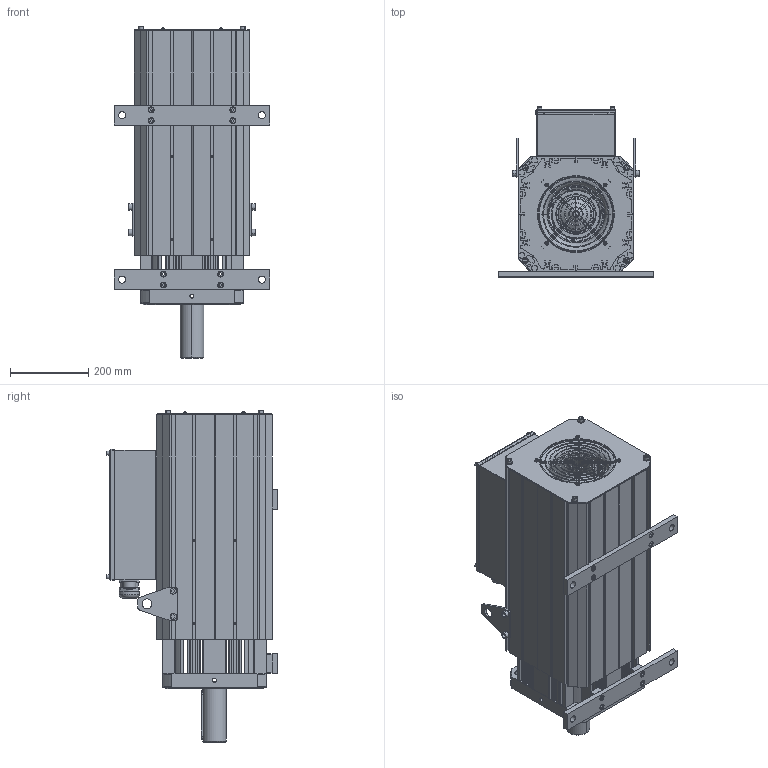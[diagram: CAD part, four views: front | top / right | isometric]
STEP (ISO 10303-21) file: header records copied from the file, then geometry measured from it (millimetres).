
FILE_DESCRIPTION (( 'STEP AP214' ), '1' );
FILE_NAME ('300YSµç»ú(ÖÆ¶¯Æ÷).STEP', '2021-04-30T05:14:12', ( '' ), ( '' ), 'SwSTEP 2.0', 'SolidWorks 2018', '' );
FILE_SCHEMA (( 'AUTOMOTIVE_DESIGN' ));
Length unit declared in the file: millimetre
Products named in the file (1): 300YS萇儂(秶雄ん)
Bounding box: 396 x 434.1 x 846.6 mm (x, y, z)
Surface area: 3249406.3 mm2 (no closed solid volume)
Topology: 0 solids, 221 shells, 1575 faces, 5449 edges, 3949 vertices
Faces by surface type: plane 964, cylinder 378, cone 99, torus 95, sphere 26, bspline 13
Entity records: 78461 total; most frequent: CARTESIAN_POINT 14036, DIRECTION 10092, ORIENTED_EDGE 8367, EDGE_CURVE 5423, VERTEX_POINT 3937, LINE 3618, VECTOR 3618, AXIS2_PLACEMENT_3D 3237
